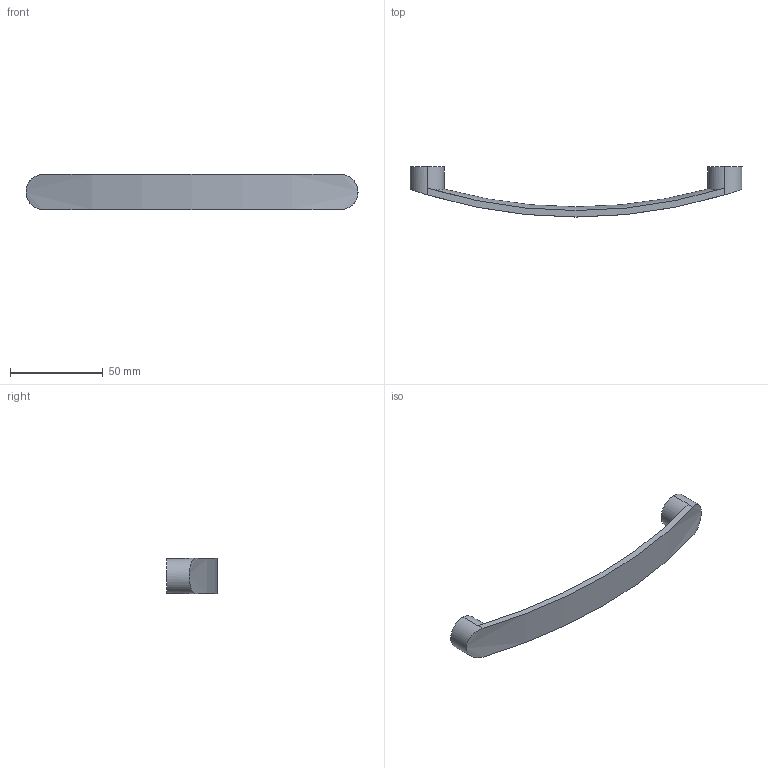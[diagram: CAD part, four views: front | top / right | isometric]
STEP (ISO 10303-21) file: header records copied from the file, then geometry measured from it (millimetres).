
FILE_DESCRIPTION( ( '' ), '1' );
FILE_NAME( 'D:/1.AUTOCAD EXPORT/Group 10/sheet_10_1/1170155.stp', '2013-10-21T08:25:25', ( '' ), ( '' ), ' ', ' ', ' ' );
FILE_SCHEMA( ( 'automotive_design' ) );
Length unit declared in the file: millimetre
Products named in the file (1): 1
Bounding box: 179 x 27 x 19 mm (x, y, z)
Volume: 21593.5 mm3; surface area: 9617.5 mm2
Topology: 1 solids, 1 shells, 19 faces, 43 edges, 28 vertices
Faces by surface type: cylinder 11, plane 6, torus 2
Entity records: 1210 total; most frequent: CARTESIAN_POINT 250, DIRECTION 92, STYLED_ITEM 91, PRESENTATION_STYLE_ASSIGNMENT 91, COLOUR_RGB 91, ORIENTED_EDGE 86, EDGE_CURVE 43, CURVE_STYLE 43
